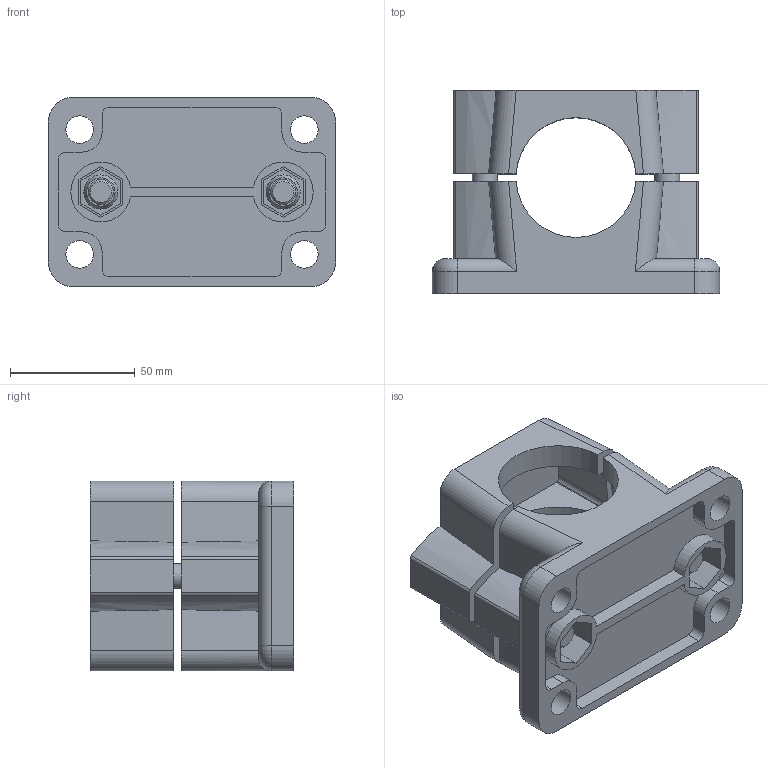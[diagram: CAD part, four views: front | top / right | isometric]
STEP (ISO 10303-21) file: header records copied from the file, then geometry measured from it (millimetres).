
FILE_DESCRIPTION( ( 'STEP AP203' ), '1' );
FILE_NAME( 'C:/Temp/Ganter_Step_05_03_2020/data/3_7/147/Flanged connector clamp GN 147-B48-2-SW.stp', '2020-03-12T14:20:37', ( 'License CC BY-ND 4.0' ), ( 'CADENAS' ), ' ', 'PARTsolutions', ' ' );
FILE_SCHEMA( ( 'CONFIG_CONTROL_DESIGN' ) );
Length unit declared in the file: millimetre
Products named in the file (1): _Flanged connector clamp GN 147-B48-2-SW
Bounding box: 115 x 81.5 x 76 mm (x, y, z)
Volume: 228208 mm3; surface area: 79782.2 mm2
Topology: 1 solids, 1 shells, 224 faces, 598 edges, 398 vertices
Faces by surface type: plane 125, cylinder 89, torus 6, cone 4
Full cylindrical faces by diameter (mm): 10 x4, 10.5 x4, 11 x4, 16 x2
Entity records: 6970 total; most frequent: CARTESIAN_POINT 1265, DIRECTION 1208, ORIENTED_EDGE 1136, EDGE_CURVE 568, AXIS2_PLACEMENT_3D 419, VERTEX_POINT 388, LINE 370, VECTOR 370
